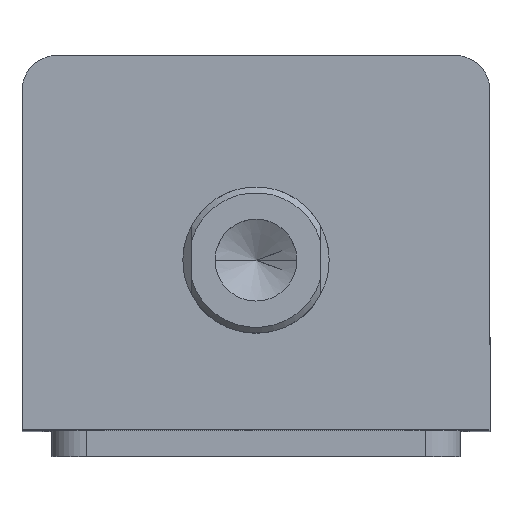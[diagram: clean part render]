
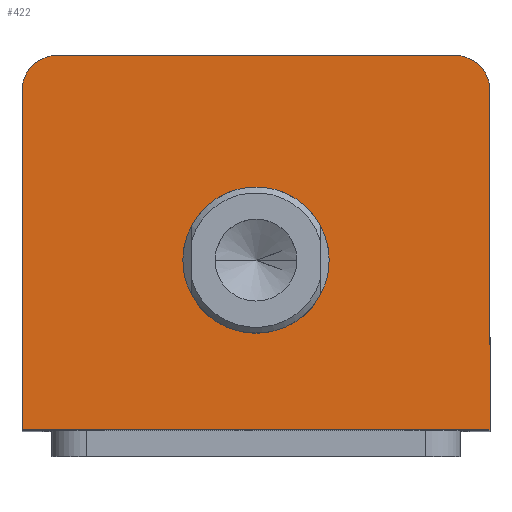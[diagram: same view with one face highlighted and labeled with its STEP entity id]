
A CAD part, top view. The second image highlights one B-rep face of the part: STEP entity #422.
In plain terms, the highlighted planar face has unit normal (0, 0, 1).
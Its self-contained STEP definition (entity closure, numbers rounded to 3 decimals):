
#32 = DIRECTION ( 'NONE',  ( 0., 1., 0. ) ) ;
#34 = CARTESIAN_POINT ( 'NONE',  ( 40., 32., 165. ) ) ;
#95 = DIRECTION ( 'NONE',  ( -1., 0., 0. ) ) ;
#100 = CARTESIAN_POINT ( 'NONE',  ( -40., 32., 165. ) ) ;
#201 = EDGE_CURVE ( 'NONE', #269, #985, #2452, .T. ) ;
#210 = EDGE_CURVE ( 'NONE', #278, #766, #2464, .T. ) ;
#269 = VERTEX_POINT ( 'NONE', #3512 ) ;
#278 = VERTEX_POINT ( 'NONE', #3521 ) ;
#301 = VERTEX_POINT ( 'NONE', #3416 ) ;
#335 = VERTEX_POINT ( 'NONE', #3275 ) ;
#422 = ADVANCED_FACE ( 'NONE', ( #1110, #1116 ), #738, .T. ) ;
#489 = EDGE_CURVE ( 'NONE', #301, #800, #1206, .T. ) ;
#511 = CARTESIAN_POINT ( 'NONE',  ( -40., -32., 165. ) ) ;
#734 = DIRECTION ( 'NONE',  ( 1., 0., 0. ) ) ;
#736 = DIRECTION ( 'NONE',  ( 0., 0., 1. ) ) ;
#738 = PLANE ( 'NONE',  #1806 ) ;
#742 = CARTESIAN_POINT ( 'NONE',  ( 0., 0., 165. ) ) ;
#766 = VERTEX_POINT ( 'NONE', #3044 ) ;
#800 = VERTEX_POINT ( 'NONE', #2969 ) ;
#808 = VERTEX_POINT ( 'NONE', #2967 ) ;
#880 = DIRECTION ( 'NONE',  ( 1., 0., 0. ) ) ;
#881 = DIRECTION ( 'NONE',  ( 0., 0., 1. ) ) ;
#882 = CARTESIAN_POINT ( 'NONE',  ( 0., -3., 165. ) ) ;
#911 = CARTESIAN_POINT ( 'NONE',  ( -40., 32., 165. ) ) ;
#915 = DIRECTION ( 'NONE',  ( 0., -1., 0. ) ) ;
#916 = DIRECTION ( 'NONE',  ( 1., 0., 0. ) ) ;
#917 = DIRECTION ( 'NONE',  ( 0., 0., 1. ) ) ;
#918 = CARTESIAN_POINT ( 'NONE',  ( 0., -3., 165. ) ) ;
#985 = VERTEX_POINT ( 'NONE', #3080 ) ;
#1110 = FACE_BOUND ( 'NONE', #2372, .T. ) ;
#1116 = FACE_OUTER_BOUND ( 'NONE', #2395, .T. ) ;
#1206 = LINE ( 'NONE', #511, #1213 ) ;
#1213 = VECTOR ( 'NONE', #3104, 1000. ) ;
#1321 = CIRCLE ( 'NONE', #1875, 12.5 ) ;
#1328 = LINE ( 'NONE', #911, #1330 ) ;
#1330 = VECTOR ( 'NONE', #915, 1000. ) ;
#1342 = CIRCLE ( 'NONE', #1882, 12.5 ) ;
#1402 = LINE ( 'NONE', #100, #1405 ) ;
#1405 = VECTOR ( 'NONE', #95, 1000. ) ;
#1442 = LINE ( 'NONE', #34, #1445 ) ;
#1445 = VECTOR ( 'NONE', #32, 1000. ) ;
#1701 = AXIS2_PLACEMENT_3D ( 'NONE', #2682, #2678, #2676 ) ;
#1708 = AXIS2_PLACEMENT_3D ( 'NONE', #2741, #2740, #2736 ) ;
#1806 = AXIS2_PLACEMENT_3D ( 'NONE', #742, #736, #734 ) ;
#1875 = AXIS2_PLACEMENT_3D ( 'NONE', #918, #917, #916 ) ;
#1882 = AXIS2_PLACEMENT_3D ( 'NONE', #882, #881, #880 ) ;
#2137 = ORIENTED_EDGE ( 'NONE', *, *, #201, .T. ) ;
#2138 = ORIENTED_EDGE ( 'NONE', *, *, #3562, .T. ) ;
#2139 = ORIENTED_EDGE ( 'NONE', *, *, #489, .T. ) ;
#2140 = ORIENTED_EDGE ( 'NONE', *, *, #2799, .T. ) ;
#2141 = ORIENTED_EDGE ( 'NONE', *, *, #210, .T. ) ;
#2142 = ORIENTED_EDGE ( 'NONE', *, *, #2865, .T. ) ;
#2143 = ORIENTED_EDGE ( 'NONE', *, *, #2828, .F. ) ;
#2144 = ORIENTED_EDGE ( 'NONE', *, *, #2779, .F. ) ;
#2372 = EDGE_LOOP ( 'NONE', ( #2144, #2143 ) ) ;
#2395 = EDGE_LOOP ( 'NONE', ( #2142, #2141, #2140, #2139, #2138, #2137 ) ) ;
#2452 = CIRCLE ( 'NONE', #1701, 6. ) ;
#2464 = CIRCLE ( 'NONE', #1708, 6. ) ;
#2676 = DIRECTION ( 'NONE',  ( 1., 0., 0. ) ) ;
#2678 = DIRECTION ( 'NONE',  ( 0., 0., 1. ) ) ;
#2682 = CARTESIAN_POINT ( 'NONE',  ( 34., 26., 165. ) ) ;
#2736 = DIRECTION ( 'NONE',  ( 1., 0., 0. ) ) ;
#2740 = DIRECTION ( 'NONE',  ( 0., 0., 1. ) ) ;
#2741 = CARTESIAN_POINT ( 'NONE',  ( -34., 26., 165. ) ) ;
#2779 = EDGE_CURVE ( 'NONE', #335, #808, #1321, .T. ) ;
#2799 = EDGE_CURVE ( 'NONE', #766, #301, #1328, .T. ) ;
#2828 = EDGE_CURVE ( 'NONE', #808, #335, #1342, .T. ) ;
#2865 = EDGE_CURVE ( 'NONE', #985, #278, #1402, .T. ) ;
#2967 = CARTESIAN_POINT ( 'NONE',  ( -12.5, -3., 165. ) ) ;
#2969 = CARTESIAN_POINT ( 'NONE',  ( 40., -32., 165. ) ) ;
#3044 = CARTESIAN_POINT ( 'NONE',  ( -40., 26., 165. ) ) ;
#3080 = CARTESIAN_POINT ( 'NONE',  ( 34., 32., 165. ) ) ;
#3104 = DIRECTION ( 'NONE',  ( 1., 0., 0. ) ) ;
#3275 = CARTESIAN_POINT ( 'NONE',  ( 12.5, -3., 165. ) ) ;
#3416 = CARTESIAN_POINT ( 'NONE',  ( -40., -32., 165. ) ) ;
#3512 = CARTESIAN_POINT ( 'NONE',  ( 40., 26., 165. ) ) ;
#3521 = CARTESIAN_POINT ( 'NONE',  ( -34., 32., 165. ) ) ;
#3562 = EDGE_CURVE ( 'NONE', #800, #269, #1442, .T. ) ;
